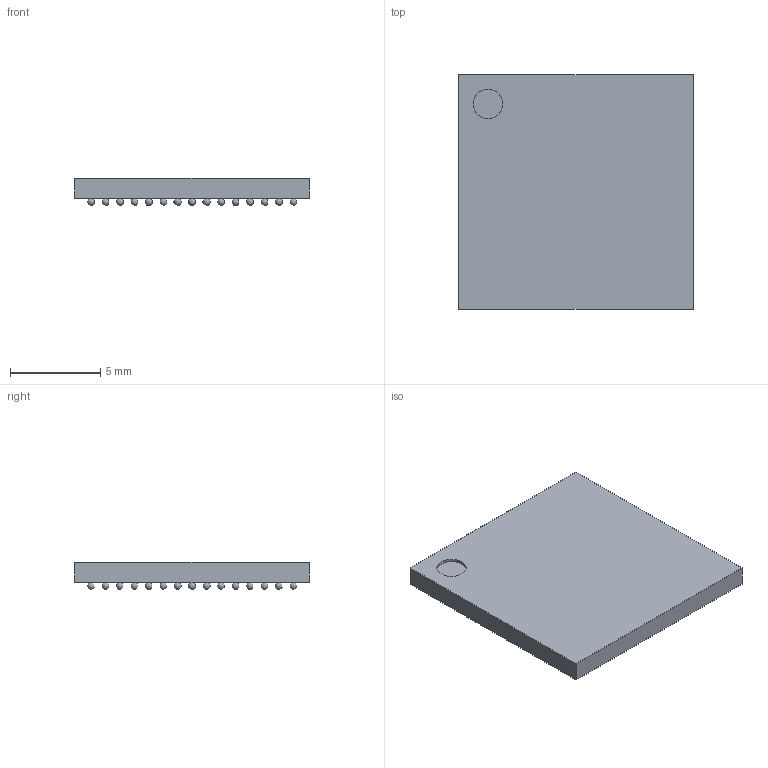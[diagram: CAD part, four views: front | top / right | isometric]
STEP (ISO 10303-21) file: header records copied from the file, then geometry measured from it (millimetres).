
FILE_DESCRIPTION(('FreeCAD Model'),'2;1');
FILE_NAME('/var/www/3D/0T/817297.1.1.stp','2021-02-09T07:18:37',( 'Author'),(''),'Open CASCADE STEP processor 6.9','FreeCAD','Unknown' );
FILE_SCHEMA(('AUTOMOTIVE_DESIGN { 1 0 10303 214 1 1 1 1 }'));
Length unit declared in the file: millimetre
Products named in the file (3): ASSEMBLY; Array; Body
Assembly tree (2 placements, depth 2):
  ASSEMBLY
    Array
    Body
Bounding box: 13 x 13 x 1.5 mm (x, y, z)
Volume: 193.1 mm3; surface area: 509.1 mm2
Topology: 226 solids, 226 shells, 233 faces, 690 edges, 460 vertices
Faces by surface type: sphere 225, plane 7, cylinder 1
Full cylindrical faces by diameter (mm): 1.625 x1
Entity records: 5180 total; most frequent: DIRECTION 519, CARTESIAN_POINT 516, AXIS2_PLACEMENT_3D 238, VERTEX_POINT 235, FACE_BOUND 234, ADVANCED_FACE 233, MANIFOLD_SOLID_BREP 226, CLOSED_SHELL 226
